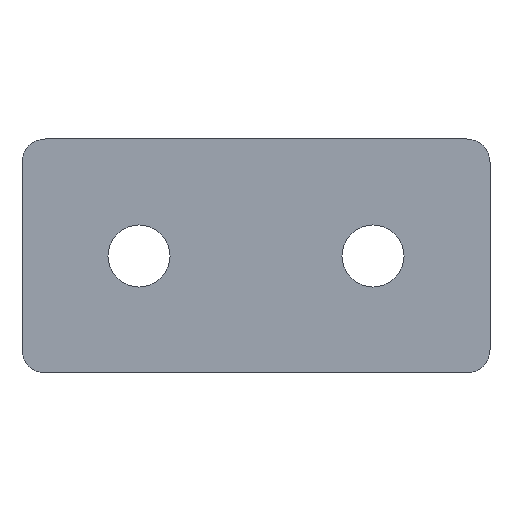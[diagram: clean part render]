
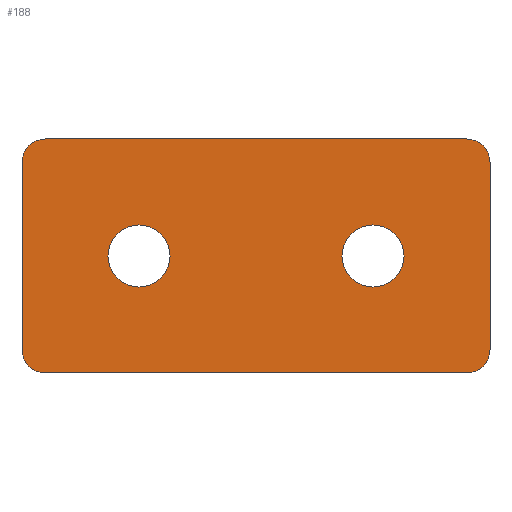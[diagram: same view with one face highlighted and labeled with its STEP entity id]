
A CAD part, front view. The second image highlights one B-rep face of the part: STEP entity #188.
In plain terms, the highlighted planar face has unit normal (0, -1, 0).
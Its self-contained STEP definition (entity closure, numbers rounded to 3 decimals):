
#11 = CARTESIAN_POINT ( 'NONE',  ( -18., -3., -8. ) ) ;
#14 = FACE_BOUND ( 'NONE', #269, .T. ) ;
#21 = LINE ( 'NONE', #380, #392 ) ;
#24 = CARTESIAN_POINT ( 'NONE',  ( 20., -3., 8. ) ) ;
#25 = VERTEX_POINT ( 'NONE', #411 ) ;
#33 = CARTESIAN_POINT ( 'NONE',  ( -20., -3., 10. ) ) ;
#35 = LINE ( 'NONE', #335, #193 ) ;
#36 = CIRCLE ( 'NONE', #379, 2. ) ;
#37 = CARTESIAN_POINT ( 'NONE',  ( 18., -3., 10. ) ) ;
#48 = DIRECTION ( 'NONE',  ( 0., 0., 1. ) ) ;
#52 = EDGE_CURVE ( 'NONE', #25, #439, #35, .T. ) ;
#58 = CARTESIAN_POINT ( 'NONE',  ( 20., -3., -8. ) ) ;
#67 = DIRECTION ( 'NONE',  ( 0., 0., 1. ) ) ;
#72 = CIRCLE ( 'NONE', #281, 2. ) ;
#76 = CARTESIAN_POINT ( 'NONE',  ( 18., -3., -8. ) ) ;
#79 = ORIENTED_EDGE ( 'NONE', *, *, #442, .T. ) ;
#85 = CARTESIAN_POINT ( 'NONE',  ( -10., -3., 0. ) ) ;
#101 = AXIS2_PLACEMENT_3D ( 'NONE', #11, #161, #419 ) ;
#102 = EDGE_LOOP ( 'NONE', ( #443, #132 ) ) ;
#103 = CIRCLE ( 'NONE', #238, 2.65 ) ;
#107 = CARTESIAN_POINT ( 'NONE',  ( 10., -3., 0. ) ) ;
#108 = ORIENTED_EDGE ( 'NONE', *, *, #449, .T. ) ;
#112 = AXIS2_PLACEMENT_3D ( 'NONE', #76, #233, #376 ) ;
#113 = CARTESIAN_POINT ( 'NONE',  ( -10., -3., 2.65 ) ) ;
#118 = ORIENTED_EDGE ( 'NONE', *, *, #223, .F. ) ;
#124 = PLANE ( 'NONE',  #176 ) ;
#132 = ORIENTED_EDGE ( 'NONE', *, *, #482, .T. ) ;
#134 = FACE_OUTER_BOUND ( 'NONE', #436, .T. ) ;
#139 = DIRECTION ( 'NONE',  ( 0., 0., 1. ) ) ;
#148 = CARTESIAN_POINT ( 'NONE',  ( 10., -3., -2.65 ) ) ;
#156 = EDGE_CURVE ( 'NONE', #299, #397, #244, .T. ) ;
#160 = VECTOR ( 'NONE', #262, 1000. ) ;
#161 = DIRECTION ( 'NONE',  ( 0., -1., 0. ) ) ;
#163 = EDGE_CURVE ( 'NONE', #339, #25, #319, .T. ) ;
#166 = AXIS2_PLACEMENT_3D ( 'NONE', #85, #245, #318 ) ;
#167 = ORIENTED_EDGE ( 'NONE', *, *, #354, .T. ) ;
#169 = DIRECTION ( 'NONE',  ( 0., 0., -1. ) ) ;
#174 = DIRECTION ( 'NONE',  ( 0., 1., 0. ) ) ;
#176 = AXIS2_PLACEMENT_3D ( 'NONE', #315, #464, #465 ) ;
#179 = EDGE_CURVE ( 'NONE', #472, #270, #72, .T. ) ;
#181 = CARTESIAN_POINT ( 'NONE',  ( -10., -3., -2.65 ) ) ;
#184 = VERTEX_POINT ( 'NONE', #58 ) ;
#188 = ADVANCED_FACE ( 'NONE', ( #474, #14, #134 ), #124, .F. ) ;
#189 = CARTESIAN_POINT ( 'NONE',  ( 18., -3., -10. ) ) ;
#193 = VECTOR ( 'NONE', #232, 1000. ) ;
#194 = CIRCLE ( 'NONE', #447, 2.65 ) ;
#203 = CARTESIAN_POINT ( 'NONE',  ( -10., -3., 0. ) ) ;
#207 = VERTEX_POINT ( 'NONE', #24 ) ;
#213 = ORIENTED_EDGE ( 'NONE', *, *, #341, .T. ) ;
#223 = EDGE_CURVE ( 'NONE', #207, #184, #21, .T. ) ;
#228 = LINE ( 'NONE', #252, #160 ) ;
#232 = DIRECTION ( 'NONE',  ( 1., 0., 0. ) ) ;
#233 = DIRECTION ( 'NONE',  ( 0., -1., 0. ) ) ;
#234 = ORIENTED_EDGE ( 'NONE', *, *, #257, .T. ) ;
#238 = AXIS2_PLACEMENT_3D ( 'NONE', #107, #174, #139 ) ;
#244 = CIRCLE ( 'NONE', #425, 2.65 ) ;
#245 = DIRECTION ( 'NONE',  ( 0., 1., 0. ) ) ;
#249 = ORIENTED_EDGE ( 'NONE', *, *, #356, .F. ) ;
#251 = VERTEX_POINT ( 'NONE', #329 ) ;
#252 = CARTESIAN_POINT ( 'NONE',  ( -20., -3., 10. ) ) ;
#257 = EDGE_CURVE ( 'NONE', #406, #251, #103, .T. ) ;
#259 = VECTOR ( 'NONE', #372, 1000. ) ;
#262 = DIRECTION ( 'NONE',  ( 0., 0., -1. ) ) ;
#264 = CARTESIAN_POINT ( 'NONE',  ( -20., -3., -8. ) ) ;
#269 = EDGE_LOOP ( 'NONE', ( #234, #167 ) ) ;
#270 = VERTEX_POINT ( 'NONE', #298 ) ;
#272 = DIRECTION ( 'NONE',  ( 0., -1., 0. ) ) ;
#273 = ORIENTED_EDGE ( 'NONE', *, *, #52, .T. ) ;
#280 = DIRECTION ( 'NONE',  ( 0., -1., 0. ) ) ;
#281 = AXIS2_PLACEMENT_3D ( 'NONE', #349, #280, #462 ) ;
#287 = CIRCLE ( 'NONE', #166, 2.65 ) ;
#298 = CARTESIAN_POINT ( 'NONE',  ( -20., -3., 8. ) ) ;
#299 = VERTEX_POINT ( 'NONE', #181 ) ;
#301 = ORIENTED_EDGE ( 'NONE', *, *, #179, .T. ) ;
#312 = CIRCLE ( 'NONE', #112, 2. ) ;
#315 = CARTESIAN_POINT ( 'NONE',  ( -20., -3., 10. ) ) ;
#318 = DIRECTION ( 'NONE',  ( 0., 0., 1. ) ) ;
#319 = CIRCLE ( 'NONE', #101, 2. ) ;
#321 = ORIENTED_EDGE ( 'NONE', *, *, #163, .T. ) ;
#322 = DIRECTION ( 'NONE',  ( 0., 0., 1. ) ) ;
#329 = CARTESIAN_POINT ( 'NONE',  ( 10., -3., 2.65 ) ) ;
#335 = CARTESIAN_POINT ( 'NONE',  ( -20., -3., -10. ) ) ;
#339 = VERTEX_POINT ( 'NONE', #264 ) ;
#341 = EDGE_CURVE ( 'NONE', #270, #339, #228, .T. ) ;
#349 = CARTESIAN_POINT ( 'NONE',  ( -18., -3., 8. ) ) ;
#354 = EDGE_CURVE ( 'NONE', #251, #406, #194, .T. ) ;
#356 = EDGE_CURVE ( 'NONE', #472, #361, #370, .T. ) ;
#361 = VERTEX_POINT ( 'NONE', #37 ) ;
#370 = LINE ( 'NONE', #33, #259 ) ;
#372 = DIRECTION ( 'NONE',  ( 1., 0., 0. ) ) ;
#376 = DIRECTION ( 'NONE',  ( 0., 0., 1. ) ) ;
#379 = AXIS2_PLACEMENT_3D ( 'NONE', #382, #272, #48 ) ;
#380 = CARTESIAN_POINT ( 'NONE',  ( 20., -3., 10. ) ) ;
#382 = CARTESIAN_POINT ( 'NONE',  ( 18., -3., 8. ) ) ;
#386 = CARTESIAN_POINT ( 'NONE',  ( -18., -3., 10. ) ) ;
#387 = DIRECTION ( 'NONE',  ( 0., 1., 0. ) ) ;
#392 = VECTOR ( 'NONE', #169, 1000. ) ;
#396 = CARTESIAN_POINT ( 'NONE',  ( 10., -3., 0. ) ) ;
#397 = VERTEX_POINT ( 'NONE', #113 ) ;
#405 = DIRECTION ( 'NONE',  ( 0., 1., 0. ) ) ;
#406 = VERTEX_POINT ( 'NONE', #148 ) ;
#411 = CARTESIAN_POINT ( 'NONE',  ( -18., -3., -10. ) ) ;
#419 = DIRECTION ( 'NONE',  ( 0., 0., 1. ) ) ;
#425 = AXIS2_PLACEMENT_3D ( 'NONE', #203, #387, #322 ) ;
#436 = EDGE_LOOP ( 'NONE', ( #213, #321, #273, #108, #118, #79, #249, #301 ) ) ;
#439 = VERTEX_POINT ( 'NONE', #189 ) ;
#442 = EDGE_CURVE ( 'NONE', #207, #361, #36, .T. ) ;
#443 = ORIENTED_EDGE ( 'NONE', *, *, #156, .T. ) ;
#447 = AXIS2_PLACEMENT_3D ( 'NONE', #396, #405, #67 ) ;
#449 = EDGE_CURVE ( 'NONE', #439, #184, #312, .T. ) ;
#462 = DIRECTION ( 'NONE',  ( 0., 0., 1. ) ) ;
#464 = DIRECTION ( 'NONE',  ( 0., 1., 0. ) ) ;
#465 = DIRECTION ( 'NONE',  ( 0., 0., 1. ) ) ;
#472 = VERTEX_POINT ( 'NONE', #386 ) ;
#474 = FACE_BOUND ( 'NONE', #102, .T. ) ;
#482 = EDGE_CURVE ( 'NONE', #397, #299, #287, .T. ) ;
